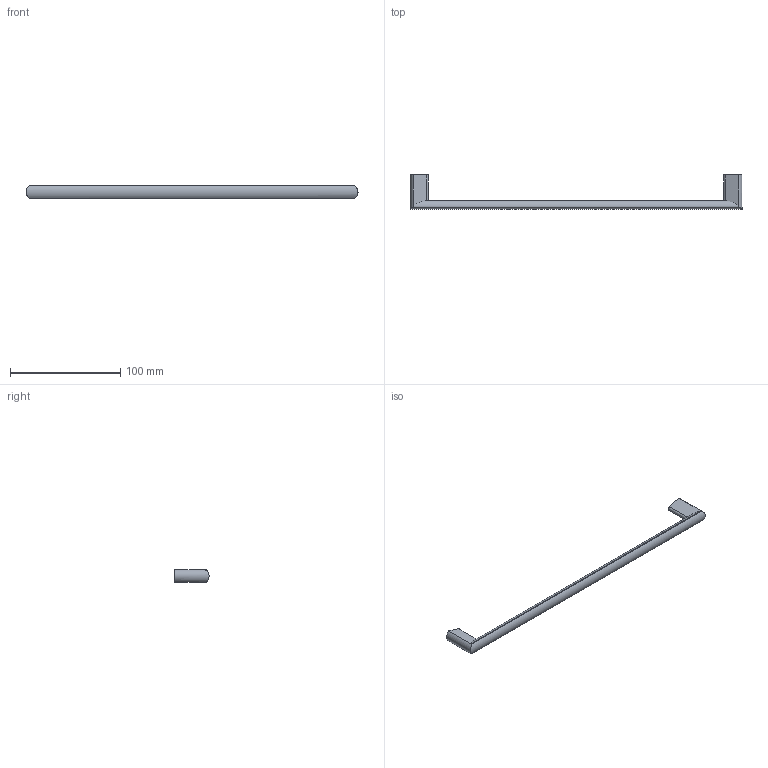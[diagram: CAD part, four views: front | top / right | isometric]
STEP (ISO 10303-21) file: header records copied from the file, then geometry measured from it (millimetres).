
FILE_DESCRIPTION( ( '' ), '1' );
FILE_NAME( 'C:/Documents and Settings/Sachin/Desktop/Sheet 10_1/stp/9113182.stp', '2013-10-22T10:41:38', ( '' ), ( '' ), ' ', ' ', ' ' );
FILE_SCHEMA( ( 'CONFIG_CONTROL_DESIGN' ) );
Length unit declared in the file: millimetre
Products named in the file (1): 1
Bounding box: 301 x 31 x 11 mm (x, y, z)
Volume: 25019.7 mm3; surface area: 11455.2 mm2
Topology: 1 solids, 1 shells, 28 faces, 74 edges, 50 vertices
Faces by surface type: cylinder 15, plane 13
Entity records: 1044 total; most frequent: CARTESIAN_POINT 305, ORIENTED_EDGE 148, DIRECTION 142, EDGE_CURVE 74, AXIS2_PLACEMENT_3D 55, VERTEX_POINT 50, LINE 32, VECTOR 32
